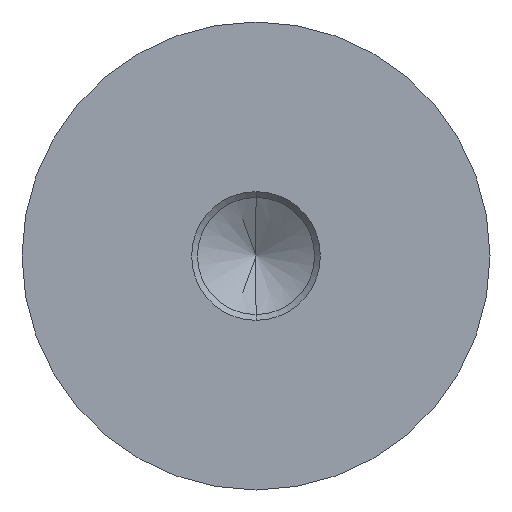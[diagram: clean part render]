
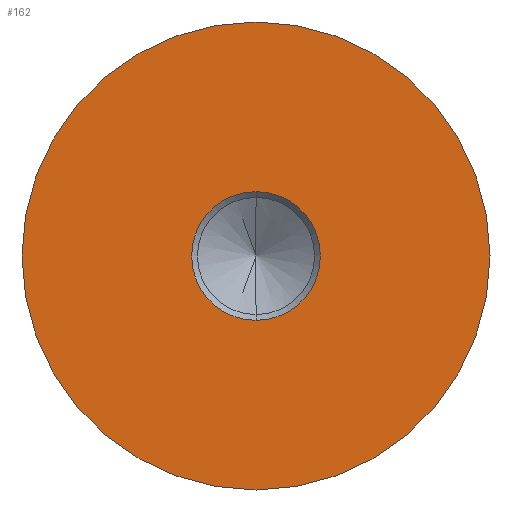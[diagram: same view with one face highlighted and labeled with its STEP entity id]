
A CAD part, front view. The second image highlights one B-rep face of the part: STEP entity #162.
In plain terms, the highlighted planar face has unit normal (0, -1, 0).
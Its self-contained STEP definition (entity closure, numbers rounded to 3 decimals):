
#19 = CIRCLE ( 'NONE', #187, 2.75 ) ;
#30 = CIRCLE ( 'NONE', #510, 10. ) ;
#37 = VERTEX_POINT ( 'NONE', #608 ) ;
#40 = EDGE_CURVE ( 'NONE', #37, #602, #205, .T. ) ;
#46 = FACE_BOUND ( 'NONE', #171, .T. ) ;
#48 = EDGE_CURVE ( 'NONE', #602, #37, #19, .T. ) ;
#65 = VERTEX_POINT ( 'NONE', #268 ) ;
#85 = EDGE_CURVE ( 'NONE', #65, #390, #398, .T. ) ;
#96 = AXIS2_PLACEMENT_3D ( 'NONE', #453, #129, #310 ) ;
#129 = DIRECTION ( 'NONE',  ( 0., -1., 0. ) ) ;
#134 = AXIS2_PLACEMENT_3D ( 'NONE', #179, #227, #279 ) ;
#136 = ORIENTED_EDGE ( 'NONE', *, *, #40, .F. ) ;
#143 = DIRECTION ( 'NONE',  ( 0., 0., 1. ) ) ;
#162 = ADVANCED_FACE ( 'NONE', ( #46, #496 ), #192, .F. ) ;
#171 = EDGE_LOOP ( 'NONE', ( #136, #341 ) ) ;
#175 = CARTESIAN_POINT ( 'NONE',  ( 0., 0., 0. ) ) ;
#179 = CARTESIAN_POINT ( 'NONE',  ( 0., 0., 0. ) ) ;
#187 = AXIS2_PLACEMENT_3D ( 'NONE', #175, #409, #512 ) ;
#192 = PLANE ( 'NONE',  #305 ) ;
#205 = CIRCLE ( 'NONE', #96, 2.75 ) ;
#227 = DIRECTION ( 'NONE',  ( 0., 1., 0. ) ) ;
#268 = CARTESIAN_POINT ( 'NONE',  ( 0., 0., -10. ) ) ;
#279 = DIRECTION ( 'NONE',  ( 0., 0., 1. ) ) ;
#305 = AXIS2_PLACEMENT_3D ( 'NONE', #470, #419, #143 ) ;
#308 = ORIENTED_EDGE ( 'NONE', *, *, #338, .F. ) ;
#310 = DIRECTION ( 'NONE',  ( 0., 0., -1. ) ) ;
#317 = CARTESIAN_POINT ( 'NONE',  ( 0., 0., 0. ) ) ;
#338 = EDGE_CURVE ( 'NONE', #390, #65, #30, .T. ) ;
#341 = ORIENTED_EDGE ( 'NONE', *, *, #48, .F. ) ;
#390 = VERTEX_POINT ( 'NONE', #554 ) ;
#398 = CIRCLE ( 'NONE', #134, 10. ) ;
#403 = DIRECTION ( 'NONE',  ( 0., 0., 1. ) ) ;
#409 = DIRECTION ( 'NONE',  ( 0., -1., 0. ) ) ;
#419 = DIRECTION ( 'NONE',  ( 0., 1., 0. ) ) ;
#441 = CARTESIAN_POINT ( 'NONE',  ( 0., 0., 2.75 ) ) ;
#452 = DIRECTION ( 'NONE',  ( 0., 1., 0. ) ) ;
#453 = CARTESIAN_POINT ( 'NONE',  ( 0., 0., 0. ) ) ;
#470 = CARTESIAN_POINT ( 'NONE',  ( 8.5, 0., 4. ) ) ;
#496 = FACE_OUTER_BOUND ( 'NONE', #547, .T. ) ;
#510 = AXIS2_PLACEMENT_3D ( 'NONE', #317, #452, #403 ) ;
#512 = DIRECTION ( 'NONE',  ( 0., 0., -1. ) ) ;
#547 = EDGE_LOOP ( 'NONE', ( #570, #308 ) ) ;
#554 = CARTESIAN_POINT ( 'NONE',  ( 0., 0., 10. ) ) ;
#570 = ORIENTED_EDGE ( 'NONE', *, *, #85, .F. ) ;
#602 = VERTEX_POINT ( 'NONE', #441 ) ;
#608 = CARTESIAN_POINT ( 'NONE',  ( 0., 0., -2.75 ) ) ;
